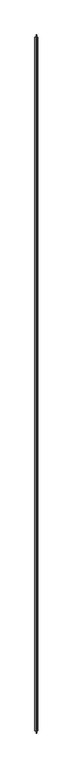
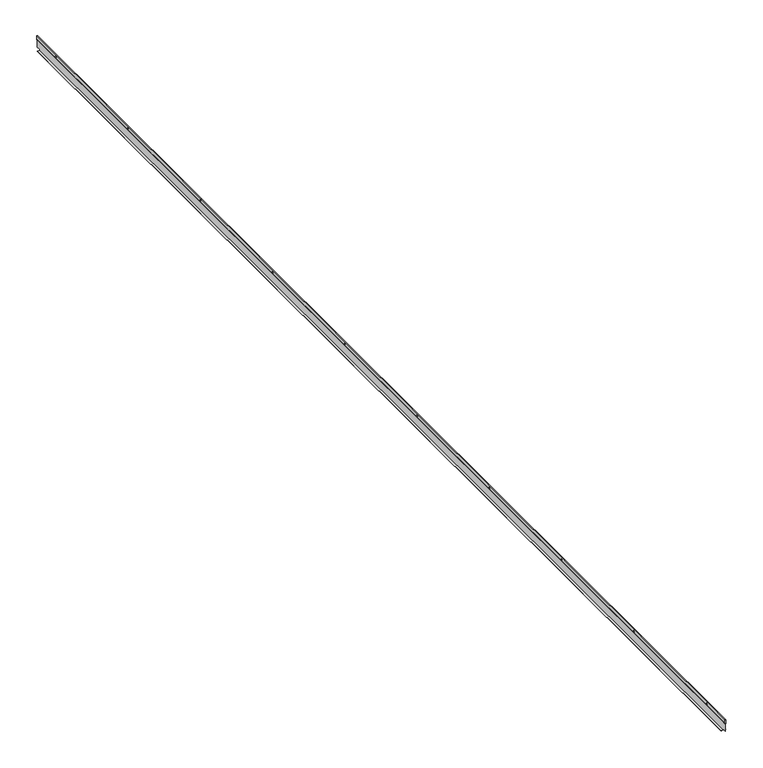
"""IFC4 building model written with IfcOpenShell, lengths in millimetres: beam geometry, XLSS7220 CROSS TEE1 : XLSS7220 CROSS TEE."""

from ifc_helpers import new_model, si_unit, frame, origin, place, context, project, spatial, polyline, circle_curve, source, transform, mapped, element, save
from ifc_brep_helpers import plane_surface, cylinder_surface, revolved_surface, advanced_brep


def beam_7c791b7a(model_context):
    return source(origin(), model_context, "Body", "AdvancedBrep", [
        advanced_brep(
        [(-8838.1108312, 11955.8378981, 3357.6809804), (-8814.1030187, 11955.8378981, 3357.6809804), (-8814.1030187, 11955.8378981, 3355.6966054), (-8864.1030187, 11955.8378981, 3355.6966054), (-8864.1030187, 11955.8378981, 3357.6809804), (-8840.0952062, 11955.8378981, 3357.6809804), (-8840.0952062, 11955.8378981, 3367.7020741), (-8838.1108312, 11955.8378981, 3367.7020741), (-8840.0952062, 196.9410231, 3357.6809804), (-8864.1030187, 196.9410231, 3357.6809804), (-8864.1030187, 196.9410231, 3355.6966054), (-8814.1030187, 196.9410231, 3355.6966054), (-8814.1030187, 196.9410231, 3357.6809804), (-8838.1108312, 196.9410231, 3357.6809804), (-8838.1108312, 196.9410231, 3367.7020741), (-8840.0952062, 196.9410231, 3367.7020741), (-8840.0952062, 158.8410231, 3367.7020741), (-8840.0952062, 158.8410231, 3440.8784561), (-8840.0952062, 196.9410231, 3440.8784561), (-8840.0952062, 11955.8378981, 3440.8784561), (-8840.0952062, 11993.9378981, 3440.8784561), (-8840.0952062, 11993.9378981, 3367.7020741), (-8844.0639562, 158.8410231, 3487.6809804), (-8834.1420812, 158.8410231, 3487.6809804), (-8834.1420812, 11993.9378981, 3487.6809804), (-8844.0639562, 11993.9378981, 3487.6809804), (-8838.1108312, 11993.9378981, 3367.7020741), (-8838.1108312, 11993.9378981, 3440.8784561), (-8838.1108312, 11955.8378981, 3440.8784561), (-8838.1108312, 196.9410231, 3440.8784561), (-8838.1108312, 158.8410231, 3440.8784561), (-8838.1108312, 158.8410231, 3367.7020741), (-8843.0582799, 196.9410231, 3446.9431379), (-8843.0582799, 11955.8378981, 3446.9431379), (-8844.0639562, 196.9410231, 3449.18427), (-8844.0639562, 11955.8378981, 3449.18427), (-8844.0639562, 158.8410231, 3449.18427), (-8844.0639562, 11993.9378981, 3449.18427), (-8844.0639562, 473.8644606, 3470.6297182), (-8844.0639562, 473.8644606, 3457.9297182), (-8844.0639562, 1726.0878981, 3470.6297182), (-8844.0639562, 1726.0878981, 3457.9297182), (-8844.0639562, 2969.0878981, 3470.6297182), (-8844.0639562, 2969.0878981, 3457.9297182), (-8844.0639562, 4212.0878981, 3470.6297182), (-8844.0639562, 4212.0878981, 3457.9297182), (-8844.0639562, 5455.0878981, 3470.6297182), (-8844.0639562, 5455.0878981, 3457.9297182), (-8844.0639562, 6698.0878981, 3470.6297182), (-8844.0639562, 6698.0878981, 3457.9297182), (-8844.0639562, 7941.0878981, 3470.6297182), (-8844.0639562, 7941.0878981, 3457.9297182), (-8844.0639562, 9184.0878981, 3470.6297182), (-8844.0639562, 9184.0878981, 3457.9297182), (-8844.0639562, 10427.0878981, 3470.6297182), (-8844.0639562, 10427.0878981, 3457.9297182), (-8844.0639562, 11670.0878981, 3470.6297182), (-8844.0639562, 11670.0878981, 3457.9297182), (-8834.1420812, 196.9410231, 3449.18427), (-8834.1420812, 11955.8378981, 3449.18427), (-8834.1420812, 11993.9378981, 3449.18427), (-8834.1420812, 158.8410231, 3449.18427), (-8834.1420812, 473.8644606, 3457.9297182), (-8834.1420812, 473.8644606, 3470.6297182), (-8834.1420812, 1726.0878981, 3457.9297182), (-8834.1420812, 1726.0878981, 3470.6297182), (-8834.1420812, 2969.0878981, 3457.9297182), (-8834.1420812, 2969.0878981, 3470.6297182), (-8834.1420812, 4212.0878981, 3457.9297182), (-8834.1420812, 4212.0878981, 3470.6297182), (-8834.1420812, 5455.0878981, 3457.9297182), (-8834.1420812, 5455.0878981, 3470.6297182), (-8834.1420812, 6698.0878981, 3457.9297182), (-8834.1420812, 6698.0878981, 3470.6297182), (-8834.1420812, 7941.0878981, 3457.9297182), (-8834.1420812, 7941.0878981, 3470.6297182), (-8834.1420812, 9184.0878981, 3457.9297182), (-8834.1420812, 9184.0878981, 3470.6297182), (-8834.1420812, 10427.0878981, 3457.9297182), (-8834.1420812, 10427.0878981, 3470.6297182), (-8834.1420812, 11670.0878981, 3457.9297182), (-8834.1420812, 11670.0878981, 3470.6297182), (-8835.1477576, 196.9410231, 3446.9431379), (-8835.1477576, 11955.8378981, 3446.9431379), (-8843.0582799, 158.8410231, 3446.9431379), (-8835.1477576, 158.8410231, 3446.9431379), (-8835.1477576, 11993.9378981, 3446.9431379), (-8843.0582799, 11993.9378981, 3446.9431379)],
        [
            (0, 1),
            (1, 2),
            (2, 3),
            (3, 4),
            (4, 5),
            (5, 6),
            (6, 7),
            (7, 0),
            (8, 9),
            (9, 10),
            (10, 11),
            (11, 12),
            (12, 13),
            (13, 14),
            (14, 15),
            (15, 8),
            (0, 13),
            (12, 1),
            (11, 2),
            (10, 3),
            (9, 4),
            (8, 5),
            (15, 16),
            (16, 17),
            (17, 18),
            (18, 19),
            (19, 20),
            (20, 21),
            (21, 6),
            (22, 23),
            (23, 24),
            (24, 25),
            (25, 22),
            (7, 26),
            (26, 27),
            (27, 28),
            (28, 29),
            (29, 30),
            (30, 31),
            (31, 14),
            (18, 32, circle_curve(frame((-8848.9718892, 196.9410231, 3440.297687), z_axis=(0.0, -1.0, 0.0), x_axis=(1.0, 0.0, 0.0)), 8.8956615)),
            (32, 33),
            (33, 19, circle_curve(frame((-8848.9718892, 11955.8378981, 3440.297687), z_axis=(0.0, 1.0, 0.0), x_axis=(1.0, 0.0, 0.0)), 8.8956615)),
            (32, 34, circle_curve(frame((-8841.0639562, 196.9410231, 3449.18427), z_axis=(0.0, 1.0, 0.0), x_axis=(-1.0, 0.0, 0.0)), 3.0)),
            (34, 35),
            (35, 33, circle_curve(frame((-8841.0639562, 11955.8378981, 3449.18427), z_axis=(0.0, -1.0, 0.0), x_axis=(-1.0, 0.0, 0.0)), 3.0)),
            (34, 36),
            (36, 22),
            (25, 37),
            (37, 35),
            (38, 39, circle_curve(frame((-8844.0639562, 473.8644606, 3464.2797182), z_axis=(1.0, 0.0, 0.0), x_axis=(0.0, 0.0, 1.0)), 6.35)),
            (39, 38, circle_curve(frame((-8844.0639562, 473.8644606, 3464.2797182), z_axis=(1.0, 0.0, 0.0), x_axis=(0.0, 0.0, 1.0)), 6.35)),
            (40, 41, circle_curve(frame((-8844.0639562, 1726.0878981, 3464.2797182), z_axis=(1.0, 0.0, 0.0), x_axis=(0.0, 0.0, 1.0)), 6.35)),
            (41, 40, circle_curve(frame((-8844.0639562, 1726.0878981, 3464.2797182), z_axis=(1.0, 0.0, 0.0), x_axis=(0.0, 0.0, 1.0)), 6.35)),
            (42, 43, circle_curve(frame((-8844.0639562, 2969.0878981, 3464.2797182), z_axis=(1.0, 0.0, 0.0), x_axis=(0.0, 0.0, 1.0)), 6.35)),
            (43, 42, circle_curve(frame((-8844.0639562, 2969.0878981, 3464.2797182), z_axis=(1.0, 0.0, 0.0), x_axis=(0.0, 0.0, 1.0)), 6.35)),
            (44, 45, circle_curve(frame((-8844.0639562, 4212.0878981, 3464.2797182), z_axis=(1.0, 0.0, 0.0), x_axis=(0.0, 0.0, 1.0)), 6.35)),
            (45, 44, circle_curve(frame((-8844.0639562, 4212.0878981, 3464.2797182), z_axis=(1.0, 0.0, 0.0), x_axis=(0.0, 0.0, 1.0)), 6.35)),
            (46, 47, circle_curve(frame((-8844.0639562, 5455.0878981, 3464.2797182), z_axis=(1.0, 0.0, 0.0), x_axis=(0.0, 0.0, 1.0)), 6.35)),
            (47, 46, circle_curve(frame((-8844.0639562, 5455.0878981, 3464.2797182), z_axis=(1.0, 0.0, 0.0), x_axis=(0.0, 0.0, 1.0)), 6.35)),
            (48, 49, circle_curve(frame((-8844.0639562, 6698.0878981, 3464.2797182), z_axis=(1.0, 0.0, 0.0), x_axis=(0.0, 0.0, 1.0)), 6.35)),
            (49, 48, circle_curve(frame((-8844.0639562, 6698.0878981, 3464.2797182), z_axis=(1.0, 0.0, 0.0), x_axis=(0.0, 0.0, 1.0)), 6.35)),
            (50, 51, circle_curve(frame((-8844.0639562, 7941.0878981, 3464.2797182), z_axis=(1.0, 0.0, 0.0), x_axis=(0.0, 0.0, 1.0)), 6.35)),
            (51, 50, circle_curve(frame((-8844.0639562, 7941.0878981, 3464.2797182), z_axis=(1.0, 0.0, 0.0), x_axis=(0.0, 0.0, 1.0)), 6.35)),
            (52, 53, circle_curve(frame((-8844.0639562, 9184.0878981, 3464.2797182), z_axis=(1.0, 0.0, 0.0), x_axis=(0.0, 0.0, 1.0)), 6.35)),
            (53, 52, circle_curve(frame((-8844.0639562, 9184.0878981, 3464.2797182), z_axis=(1.0, 0.0, 0.0), x_axis=(0.0, 0.0, 1.0)), 6.35)),
            (54, 55, circle_curve(frame((-8844.0639562, 10427.0878981, 3464.2797182), z_axis=(1.0, 0.0, 0.0), x_axis=(0.0, 0.0, 1.0)), 6.35)),
            (55, 54, circle_curve(frame((-8844.0639562, 10427.0878981, 3464.2797182), z_axis=(1.0, 0.0, 0.0), x_axis=(0.0, 0.0, 1.0)), 6.35)),
            (56, 57, circle_curve(frame((-8844.0639562, 11670.0878981, 3464.2797182), z_axis=(1.0, 0.0, 0.0), x_axis=(0.0, 0.0, 1.0)), 6.35)),
            (57, 56, circle_curve(frame((-8844.0639562, 11670.0878981, 3464.2797182), z_axis=(1.0, 0.0, 0.0), x_axis=(0.0, 0.0, 1.0)), 6.35)),
            (58, 59),
            (59, 60),
            (60, 24),
            (23, 61),
            (61, 58),
            (62, 63, circle_curve(frame((-8834.1420812, 473.8644606, 3464.2797182), z_axis=(-1.0, 0.0, 0.0), x_axis=(0.0, 0.0, 1.0)), 6.35)),
            (63, 62, circle_curve(frame((-8834.1420812, 473.8644606, 3464.2797182), z_axis=(-1.0, 0.0, 0.0), x_axis=(0.0, 0.0, 1.0)), 6.35)),
            (64, 65, circle_curve(frame((-8834.1420812, 1726.0878981, 3464.2797182), z_axis=(-1.0, 0.0, 0.0), x_axis=(0.0, 0.0, 1.0)), 6.35)),
            (65, 64, circle_curve(frame((-8834.1420812, 1726.0878981, 3464.2797182), z_axis=(-1.0, 0.0, 0.0), x_axis=(0.0, 0.0, 1.0)), 6.35)),
            (66, 67, circle_curve(frame((-8834.1420812, 2969.0878981, 3464.2797182), z_axis=(-1.0, 0.0, 0.0), x_axis=(0.0, 0.0, 1.0)), 6.35)),
            (67, 66, circle_curve(frame((-8834.1420812, 2969.0878981, 3464.2797182), z_axis=(-1.0, 0.0, 0.0), x_axis=(0.0, 0.0, 1.0)), 6.35)),
            (68, 69, circle_curve(frame((-8834.1420812, 4212.0878981, 3464.2797182), z_axis=(-1.0, 0.0, 0.0), x_axis=(0.0, 0.0, 1.0)), 6.35)),
            (69, 68, circle_curve(frame((-8834.1420812, 4212.0878981, 3464.2797182), z_axis=(-1.0, 0.0, 0.0), x_axis=(0.0, 0.0, 1.0)), 6.35)),
            (70, 71, circle_curve(frame((-8834.1420812, 5455.0878981, 3464.2797182), z_axis=(-1.0, 0.0, 0.0), x_axis=(0.0, 0.0, 1.0)), 6.35)),
            (71, 70, circle_curve(frame((-8834.1420812, 5455.0878981, 3464.2797182), z_axis=(-1.0, 0.0, 0.0), x_axis=(0.0, 0.0, 1.0)), 6.35)),
            (72, 73, circle_curve(frame((-8834.1420812, 6698.0878981, 3464.2797182), z_axis=(-1.0, 0.0, 0.0), x_axis=(0.0, 0.0, 1.0)), 6.35)),
            (73, 72, circle_curve(frame((-8834.1420812, 6698.0878981, 3464.2797182), z_axis=(-1.0, 0.0, 0.0), x_axis=(0.0, 0.0, 1.0)), 6.35)),
            (74, 75, circle_curve(frame((-8834.1420812, 7941.0878981, 3464.2797182), z_axis=(-1.0, 0.0, 0.0), x_axis=(0.0, 0.0, 1.0)), 6.35)),
            (75, 74, circle_curve(frame((-8834.1420812, 7941.0878981, 3464.2797182), z_axis=(-1.0, 0.0, 0.0), x_axis=(0.0, 0.0, 1.0)), 6.35)),
            (76, 77, circle_curve(frame((-8834.1420812, 9184.0878981, 3464.2797182), z_axis=(-1.0, 0.0, 0.0), x_axis=(0.0, 0.0, 1.0)), 6.35)),
            (77, 76, circle_curve(frame((-8834.1420812, 9184.0878981, 3464.2797182), z_axis=(-1.0, 0.0, 0.0), x_axis=(0.0, 0.0, 1.0)), 6.35)),
            (78, 79, circle_curve(frame((-8834.1420812, 10427.0878981, 3464.2797182), z_axis=(-1.0, 0.0, 0.0), x_axis=(0.0, 0.0, 1.0)), 6.35)),
            (79, 78, circle_curve(frame((-8834.1420812, 10427.0878981, 3464.2797182), z_axis=(-1.0, 0.0, 0.0), x_axis=(0.0, 0.0, 1.0)), 6.35)),
            (80, 81, circle_curve(frame((-8834.1420812, 11670.0878981, 3464.2797182), z_axis=(-1.0, 0.0, 0.0), x_axis=(0.0, 0.0, 1.0)), 6.35)),
            (81, 80, circle_curve(frame((-8834.1420812, 11670.0878981, 3464.2797182), z_axis=(-1.0, 0.0, 0.0), x_axis=(0.0, 0.0, 1.0)), 6.35)),
            (58, 82, circle_curve(frame((-8837.1420812, 196.9410231, 3449.18427), z_axis=(0.0, 1.0, 0.0), x_axis=(-1.0, 0.0, 0.0)), 3.0)),
            (82, 83),
            (83, 59, circle_curve(frame((-8837.1420812, 11955.8378981, 3449.18427), z_axis=(0.0, -1.0, 0.0), x_axis=(-1.0, 0.0, 0.0)), 3.0)),
            (28, 83, circle_curve(frame((-8829.2341483, 11955.8378981, 3440.297687), z_axis=(0.0, 1.0, 0.0), x_axis=(-1.0, 0.0, 0.0)), 8.8956615)),
            (82, 29, circle_curve(frame((-8829.2341483, 196.9410231, 3440.297687), z_axis=(0.0, -1.0, 0.0), x_axis=(-1.0, 0.0, 0.0)), 8.8956615)),
            (36, 84, circle_curve(frame((-8841.0639562, 158.8410231, 3449.18427), z_axis=(0.0, -1.0, 0.0), x_axis=(-1.0, 0.0, 0.0)), 3.0)),
            (84, 17, circle_curve(frame((-8848.9718892, 158.8410231, 3440.297687), z_axis=(0.0, 1.0, 0.0), x_axis=(1.0, 0.0, 0.0)), 8.8956615)),
            (16, 31),
            (30, 85, circle_curve(frame((-8829.2341483, 158.8410231, 3440.297687), z_axis=(0.0, 1.0, 0.0), x_axis=(-1.0, 0.0, 0.0)), 8.8956615)),
            (85, 61, circle_curve(frame((-8837.1420812, 158.8410231, 3449.18427), z_axis=(0.0, -1.0, 0.0), x_axis=(-1.0, 0.0, 0.0)), 3.0)),
            (32, 84),
            (82, 85),
            (60, 86, circle_curve(frame((-8837.1420812, 11993.9378981, 3449.18427), z_axis=(0.0, 1.0, 0.0), x_axis=(-1.0, 0.0, 0.0)), 3.0)),
            (86, 27, circle_curve(frame((-8829.2341483, 11993.9378981, 3440.297687), z_axis=(0.0, -1.0, 0.0), x_axis=(-1.0, 0.0, 0.0)), 8.8956615)),
            (26, 21),
            (20, 87, circle_curve(frame((-8848.9718892, 11993.9378981, 3440.297687), z_axis=(0.0, -1.0, 0.0), x_axis=(1.0, 0.0, 0.0)), 8.8956615)),
            (87, 37, circle_curve(frame((-8841.0639562, 11993.9378981, 3449.18427), z_axis=(0.0, 1.0, 0.0), x_axis=(-1.0, 0.0, 0.0)), 3.0)),
            (83, 86),
            (33, 87),
            (38, 63),
            (62, 39),
            (40, 65),
            (64, 41),
            (42, 67),
            (66, 43),
            (44, 69),
            (68, 45),
            (46, 71),
            (70, 47),
            (48, 73),
            (72, 49),
            (50, 75),
            (74, 51),
            (52, 77),
            (76, 53),
            (54, 79),
            (78, 55),
            (56, 81),
            (80, 57),
        ],
        [
            plane_surface(frame((-8827.1030187, 11955.8378981, 3357.6809804), z_axis=(0.0, 1.0, 0.0), x_axis=(1.0, 0.0, 0.0))),
            plane_surface(frame((-8827.1030187, 196.9410231, 3357.6809804), z_axis=(0.0, -1.0, 0.0), x_axis=(-1.0, 0.0, 0.0))),
            plane_surface(frame((-8838.1108312, 11955.8378981, 3357.6809804), z_axis=(0.0, 0.0, 1.0), x_axis=(0.0, -1.0, 0.0))),
            plane_surface(frame((-8814.1030187, 11955.8378981, 3357.6809804), z_axis=(1.0, 0.0, 0.0), x_axis=(0.0, -1.0, 0.0))),
            plane_surface(frame((-8814.1030187, 11955.8378981, 3355.6966054), z_axis=(0.0, 0.0, -1.0), x_axis=(0.0, -1.0, 0.0))),
            plane_surface(frame((-8864.1030187, 11955.8378981, 3355.6966054), z_axis=(-1.0, 0.0, 0.0), x_axis=(0.0, -1.0, 0.0))),
            plane_surface(frame((-8864.1030187, 11955.8378981, 3357.6809804), z_axis=(0.0, 0.0, 1.0), x_axis=(0.0, -1.0, 0.0))),
            plane_surface(frame((-8840.0952062, 11955.8378981, 3357.6809804), z_axis=(-1.0, 0.0, 0.0), x_axis=(0.0, -1.0, 0.0))),
            plane_surface(frame((-8844.0639562, 11955.8378981, 3487.6809804), z_axis=(0.0, 0.0, 1.0), x_axis=(0.0, -1.0, 0.0))),
            plane_surface(frame((-8838.1108312, 11955.8378981, 3440.8784561), z_axis=(1.0, 0.0, 0.0), x_axis=(0.0, -1.0, 0.0))),
            revolved_surface(polyline([(-8840.0762277, 196.9410231, 3440.297687), (-8840.0762277, 11955.8378981, 3440.297687)]), (-8848.9718892, 196.9410231, 3440.297687), (0.0, -1.0, 0.0)),
            cylinder_surface(frame((-8841.0639562, 196.9410231, 3449.18427), z_axis=(0.0, 1.0, 0.0), x_axis=(-1.0, 0.0, 0.0)), 3.0),
            plane_surface(frame((-8844.0639562, 11955.8378981, 3449.18427), z_axis=(-1.0, 0.0, 0.0), x_axis=(0.0, -1.0, 0.0))),
            plane_surface(frame((-8834.1420812, 11955.8378981, 3487.6809804), z_axis=(1.0, 0.0, 0.0), x_axis=(0.0, -1.0, 0.0))),
            cylinder_surface(frame((-8837.1420812, 196.9410231, 3449.18427), z_axis=(0.0, 1.0, 0.0), x_axis=(-1.0, 0.0, 0.0)), 3.0),
            revolved_surface(polyline([(-8838.1298098, 196.9410231, 3440.297687), (-8838.1298098, 11955.8378981, 3440.297687)]), (-8829.2341483, 196.9410231, 3440.297687), (0.0, -1.0, 0.0)),
            plane_surface(frame((-8834.1420812, 158.8410231, 3487.6809804), z_axis=(0.0, -1.0, 0.0), x_axis=(-1.0, 0.0, 0.0))),
            cylinder_surface(frame((-8841.0639562, 196.9410231, 3449.18427), z_axis=(0.0, -1.0, 0.0), x_axis=(-1.0, 0.0, 0.0)), 3.0),
            revolved_surface(polyline([(-8840.0762277, 196.9410231, 3440.297687), (-8840.0762277, 158.8410231, 3440.297687)]), (-8848.9718892, 196.9410231, 3440.297687), (0.0, 1.0, 0.0)),
            plane_surface(frame((-8840.0952062, 158.8410231, 3367.7020741), z_axis=(0.0, 0.0, -1.0), x_axis=(0.0, 1.0, 0.0))),
            revolved_surface(polyline([(-8838.1298098, 196.9410231, 3440.297687), (-8838.1298098, 158.8410231, 3440.297687)]), (-8829.2341483, 196.9410231, 3440.297687), (0.0, 1.0, 0.0)),
            cylinder_surface(frame((-8837.1420812, 196.9410231, 3449.18427), z_axis=(0.0, -1.0, 0.0), x_axis=(-1.0, 0.0, 0.0)), 3.0),
            plane_surface(frame((-8844.0639562, 11993.9378981, 3487.6809804), z_axis=(0.0, 1.0, 0.0), x_axis=(1.0, 0.0, 0.0))),
            cylinder_surface(frame((-8837.1420812, 11955.8378981, 3449.18427), z_axis=(0.0, 1.0, 0.0), x_axis=(-1.0, 0.0, 0.0)), 3.0),
            revolved_surface(polyline([(-8838.1298098, 11955.8378981, 3440.297687), (-8838.1298098, 11993.9378981, 3440.297687)]), (-8829.2341483, 11955.8378981, 3440.297687), (0.0, -1.0, 0.0)),
            plane_surface(frame((-8838.1108312, 11993.9378981, 3367.7020741), z_axis=(0.0, 0.0, -1.0), x_axis=(0.0, -1.0, 0.0))),
            revolved_surface(polyline([(-8840.0762277, 11955.8378981, 3440.297687), (-8840.0762277, 11993.9378981, 3440.297687)]), (-8848.9718892, 11955.8378981, 3440.297687), (0.0, -1.0, 0.0)),
            cylinder_surface(frame((-8841.0639562, 11955.8378981, 3449.18427), z_axis=(0.0, 1.0, 0.0), x_axis=(-1.0, 0.0, 0.0)), 3.0),
            revolved_surface(polyline([(-8844.0639562, 473.8644606, 3470.6297182), (-8834.1420812, 473.8644606, 3470.6297182)]), (-8834.1420812, 473.8644606, 3464.2797182), (-1.0, 0.0, 0.0)),
            revolved_surface(polyline([(-8844.0639562, 1726.0878981, 3470.6297182), (-8834.1420812, 1726.0878981, 3470.6297182)]), (-8834.1420812, 1726.0878981, 3464.2797182), (-1.0, 0.0, 0.0)),
            revolved_surface(polyline([(-8844.0639562, 2969.0878981, 3470.6297182), (-8834.1420812, 2969.0878981, 3470.6297182)]), (-8834.1420812, 2969.0878981, 3464.2797182), (-1.0, 0.0, 0.0)),
            revolved_surface(polyline([(-8844.0639562, 4212.0878981, 3470.6297182), (-8834.1420812, 4212.0878981, 3470.6297182)]), (-8834.1420812, 4212.0878981, 3464.2797182), (-1.0, 0.0, 0.0)),
            revolved_surface(polyline([(-8844.0639562, 5455.0878981, 3470.6297182), (-8834.1420812, 5455.0878981, 3470.6297182)]), (-8834.1420812, 5455.0878981, 3464.2797182), (-1.0, 0.0, 0.0)),
            revolved_surface(polyline([(-8844.0639562, 6698.0878981, 3470.6297182), (-8834.1420812, 6698.0878981, 3470.6297182)]), (-8834.1420812, 6698.0878981, 3464.2797182), (-1.0, 0.0, 0.0)),
            revolved_surface(polyline([(-8844.0639562, 7941.0878981, 3470.6297182), (-8834.1420812, 7941.0878981, 3470.6297182)]), (-8834.1420812, 7941.0878981, 3464.2797182), (-1.0, 0.0, 0.0)),
            revolved_surface(polyline([(-8844.0639562, 9184.0878981, 3470.6297182), (-8834.1420812, 9184.0878981, 3470.6297182)]), (-8834.1420812, 9184.0878981, 3464.2797182), (-1.0, 0.0, 0.0)),
            revolved_surface(polyline([(-8844.0639562, 10427.0878981, 3470.6297182), (-8834.1420812, 10427.0878981, 3470.6297182)]), (-8834.1420812, 10427.0878981, 3464.2797182), (-1.0, 0.0, 0.0)),
            revolved_surface(polyline([(-8844.0639562, 11670.0878981, 3470.6297182), (-8834.1420812, 11670.0878981, 3470.6297182)]), (-8834.1420812, 11670.0878981, 3464.2797182), (-1.0, 0.0, 0.0)),
        ],
        [
            (0, [[1, 2, 3, 4, 5, 6, 7, 8]]),
            (1, [[9, 10, 11, 12, 13, 14, 15, 16]]),
            (2, [[-1, 17, -13, 18]]),
            (3, [[-2, -18, -12, 19]]),
            (4, [[-3, -19, -11, 20]]),
            (5, [[-4, -20, -10, 21]]),
            (6, [[-5, -21, -9, 22]]),
            (7, [[-22, -16, 23, 24, 25, 26, 27, 28, 29, -6]]),
            (8, [[30, 31, 32, 33]]),
            (9, [[-17, -8, 34, 35, 36, 37, 38, 39, 40, -14]]),
            (10, [[-26, 41, 42, 43]]),
            (11, [[-42, 44, 45, 46]]),
            (12, [[-45, 47, 48, -33, 49, 50], [51, 52], [53, 54], [55, 56], [57, 58], [59, 60], [61, 62], [63, 64], [65, 66], [67, 68], [69, 70]]),
            (13, [[71, 72, 73, -31, 74, 75], [76, 77], [78, 79], [80, 81], [82, 83], [84, 85], [86, 87], [88, 89], [90, 91], [92, 93], [94, 95]]),
            (14, [[-71, 96, 97, 98]]),
            (15, [[-37, 99, -97, 100]]),
            (16, [[-30, -48, 101, 102, -24, 103, -39, 104, 105, -74]]),
            (17, [[-101, -47, -44, 106]]),
            (18, [[-102, -106, -41, -25]]),
            (19, [[-103, -23, -15, -40]]),
            (20, [[-104, -38, -100, 107]]),
            (21, [[-105, -107, -96, -75]]),
            (22, [[-32, -73, 108, 109, -35, 110, -28, 111, 112, -49]]),
            (23, [[-108, -72, -98, 113]]),
            (24, [[-109, -113, -99, -36]]),
            (25, [[-110, -34, -7, -29]]),
            (26, [[-111, -27, -43, 114]]),
            (27, [[-112, -114, -46, -50]]),
            (28, [[115, -76, 116, -51]]),
            (28, [[-115, -52, -116, -77]]),
            (29, [[117, -78, 118, -53]]),
            (29, [[-117, -54, -118, -79]]),
            (30, [[119, -80, 120, -55]]),
            (30, [[-119, -56, -120, -81]]),
            (31, [[121, -82, 122, -57]]),
            (31, [[-121, -58, -122, -83]]),
            (32, [[123, -84, 124, -59]]),
            (32, [[-123, -60, -124, -85]]),
            (33, [[125, -86, 126, -61]]),
            (33, [[-125, -62, -126, -87]]),
            (34, [[127, -88, 128, -63]]),
            (34, [[-127, -64, -128, -89]]),
            (35, [[129, -90, 130, -65]]),
            (35, [[-129, -66, -130, -91]]),
            (36, [[131, -92, 132, -67]]),
            (36, [[-131, -68, -132, -93]]),
            (37, [[133, -94, 134, -69]]),
            (37, [[-133, -70, -134, -95]]),
        ],
    ),
    ])


if __name__ == "__main__":
    model = new_model("IFC4")
    model_context = context("Model", 3, world=origin())
    ifc_project = project(units=[si_unit("LENGTHUNIT", "METRE", prefix="MILLI")], contexts=[model_context])
    site = spatial("IfcSite", under=ifc_project)
    building = spatial("IfcBuilding", under=site)
    placement = place(None, origin())
    beam_shape = beam_7c791b7a(model_context)
    element("IfcBeam", 1, ObjectType="XLSS7220 CROSS TEE1 : XLSS7220 CROSS TEE", at=placement, inside=building, context=model_context, shape_type="MappedRepresentation", body=[
        mapped(beam_shape, transform((0.0, 0.0, 0.0), x_axis=(1.0, 0.0, 0.0), y_axis=(0.0, 1.0, 0.0), z_axis=(0.0, 0.0, 1.0))),
    ])
    save(model, "model.ifc")
